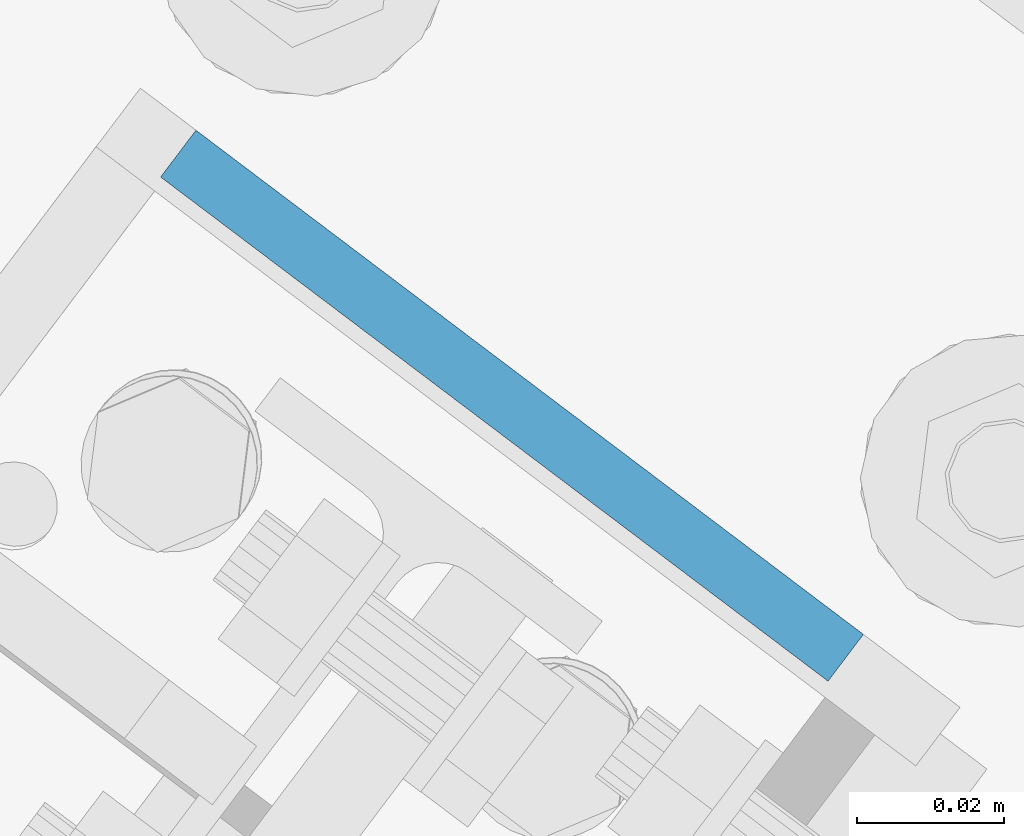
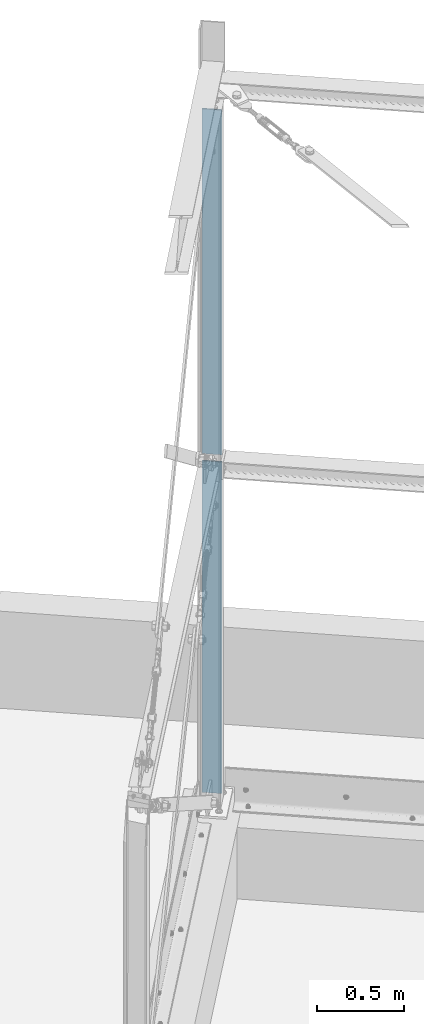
# One storey, part 32 of 476: 2 plates.
"""IFC2X3 building model written with IfcOpenShell, lengths in millimetres."""

from ifc_helpers import new_model, entity, si_unit, converted_unit, frame, origin_with_axes, place, context, project, spatial, polyline, outline, extrude, material, layer, layer_set, element, save


model = new_model("IFC2X3")

# Units and contexts
model_context = context("Model", 3, precision=1e-09, world=origin_with_axes())
ifc_project = project(units=[si_unit("LENGTHUNIT", "METRE", prefix="MILLI"), si_unit("AREAUNIT", "SQUARE_METRE"), si_unit("VOLUMEUNIT", "CUBIC_METRE"), converted_unit("PLANEANGLEUNIT", "DEGREE", entity("IfcPlaneAngleMeasure", 0.01745329), si_unit("PLANEANGLEUNIT", "RADIAN"), dimensions=[0, 0, 0, 0, 0, 0, 0])], contexts=[model_context])

# Site, building, storey
site_placement = place(None, origin_with_axes())
site = spatial("IfcSite", under=ifc_project, at=site_placement, Name="mKR Teilneubau & Sanierung BA1 - Ostfildern", CompositionType="ELEMENT")
building_placement = place(site_placement, origin_with_axes())
building = spatial("IfcBuilding", under=site, at=building_placement, Name="Struktur 1", CompositionType="ELEMENT")
storey_placement = place(building_placement, origin_with_axes())
storey = spatial("IfcBuildingStorey", under=building, at=storey_placement, Name="Default Storey", CompositionType="ELEMENT", Elevation=0.0)

# Plates
ifc_material = material(Name="S235JR")
ifc_layer = layer(ifc_material, 8.0)
ifc_layer_set = layer_set([ifc_layer], Name="S235JR")
plate_1_placement = place(None, frame((8598.131544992, 11092.423108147, 2957.940335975), z_axis=(0.602734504, 0.797941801, 0.0), x_axis=(-0.797941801, 0.602734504, 0.0)))
element("IfcPlate", 1, at=plate_1_placement, inside=storey, material=ifc_layer_set, Name="-", ObjectType="-", context=model_context, shape_type="SweptSolid", body=[
    extrude(outline(polyline([(-57.0, -20.940335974), (57.0, -20.940335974), (57.0, 2392.939335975), (-57.0, 2392.939335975), (-57.0, -20.940335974)])), origin_with_axes(), (0.0, 0.0, 1.0), 8.0),
])
plate_2_placement = place(None, frame((8598.131544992, 11092.423108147, 2957.940335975), z_axis=(0.602734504, 0.797941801, 0.0), x_axis=(-0.797941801, 0.602734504, 0.0)))
element("IfcPlate", 2, at=plate_2_placement, inside=storey, material=ifc_layer_set, Name="-", ObjectType="-", context=model_context, shape_type="SweptSolid", body=[
    extrude(outline(polyline([(-57.0, -70.940335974), (-57.0, -2392.939335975), (57.0, -2392.939335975), (57.0, -70.940335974), (-57.0, -70.940335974)])), origin_with_axes(), (0.0, 0.0, 1.0), 8.0),
])

save(model, "model.ifc")
